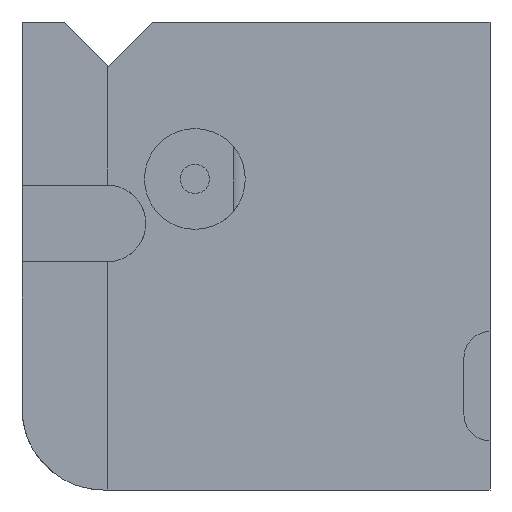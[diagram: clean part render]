
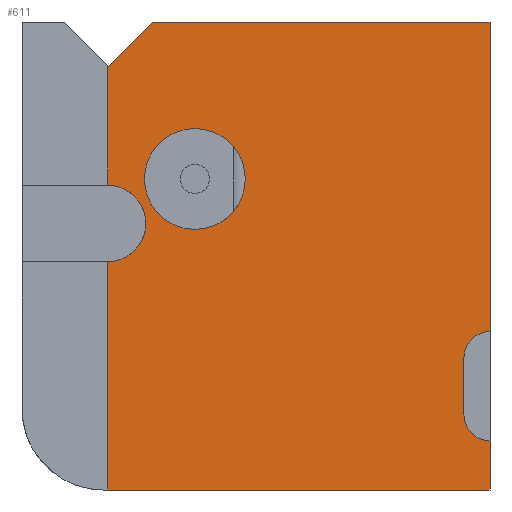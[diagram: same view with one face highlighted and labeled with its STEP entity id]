
A CAD part, front view. The second image highlights one B-rep face of the part: STEP entity #611.
In plain terms, the highlighted planar face has unit normal (0, -1, 0).
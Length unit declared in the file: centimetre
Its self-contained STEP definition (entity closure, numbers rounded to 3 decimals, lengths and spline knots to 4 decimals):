
#50 = EDGE_CURVE ( 'NONE', #1776, #986, #616, .T. ) ;
#59 = CARTESIAN_POINT ( 'NONE',  ( 185.076, 0., 905.8421 ) ) ;
#73 = EDGE_CURVE ( 'NONE', #1118, #184, #1415, .T. ) ;
#85 = DIRECTION ( 'NONE',  ( 0., 0., 1. ) ) ;
#160 = CARTESIAN_POINT ( 'NONE',  ( 369.394, 0., 664.5711 ) ) ;
#184 = VERTEX_POINT ( 'NONE', #1517 ) ;
#194 = EDGE_CURVE ( 'NONE', #1234, #1776, #363, .T. ) ;
#196 = AXIS2_PLACEMENT_3D ( 'NONE', #1888, #1543, #748 ) ;
#244 = ORIENTED_EDGE ( 'NONE', *, *, #1048, .F. ) ;
#277 = CARTESIAN_POINT ( 'NONE',  ( 185.076, 0., 905.8421 ) ) ;
#283 = AXIS2_PLACEMENT_3D ( 'NONE', #335, #1148, #496 ) ;
#313 = DIRECTION ( 'NONE',  ( 0., 0., 1. ) ) ;
#328 = VECTOR ( 'NONE', #1706, 100. ) ;
#335 = CARTESIAN_POINT ( 'NONE',  ( 1000., 0., 283.0173 ) ) ;
#344 = DIRECTION ( 'NONE',  ( 0., 1., 0. ) ) ;
#347 = CARTESIAN_POINT ( 'NONE',  ( 183.6865, 0., 651.5066 ) ) ;
#354 = CARTESIAN_POINT ( 'NONE',  ( 279.2339, 0., 1000. ) ) ;
#363 = LINE ( 'NONE', #1008, #1145 ) ;
#367 = VECTOR ( 'NONE', #1463, 100. ) ;
#369 = DIRECTION ( 'NONE',  ( -0.707, 0., 0.707 ) ) ;
#389 = ORIENTED_EDGE ( 'NONE', *, *, #1393, .F. ) ;
#415 = DIRECTION ( 'NONE',  ( 0., -1., 0. ) ) ;
#426 = VERTEX_POINT ( 'NONE', #347 ) ;
#445 = DIRECTION ( 'NONE',  ( 0., 0., -1. ) ) ;
#452 = VERTEX_POINT ( 'NONE', #1336 ) ;
#468 = ORIENTED_EDGE ( 'NONE', *, *, #1495, .F. ) ;
#470 = VECTOR ( 'NONE', #1642, 100. ) ;
#475 = VECTOR ( 'NONE', #1362, 100. ) ;
#493 = ORIENTED_EDGE ( 'NONE', *, *, #982, .T. ) ;
#496 = DIRECTION ( 'NONE',  ( 0., 0., 1. ) ) ;
#497 = AXIS2_PLACEMENT_3D ( 'NONE', #909, #415, #2042 ) ;
#529 = LINE ( 'NONE', #1174, #1681 ) ;
#546 = ORIENTED_EDGE ( 'NONE', *, *, #1477, .T. ) ;
#583 = EDGE_LOOP ( 'NONE', ( #1683, #865 ) ) ;
#587 = CIRCLE ( 'NONE', #283, 55.5855 ) ;
#600 = CARTESIAN_POINT ( 'NONE',  ( 1000., 0., 1000. ) ) ;
#611 = ADVANCED_FACE ( 'NONE', ( #1884, #1907 ), #1072, .F. ) ;
#616 = CIRCLE ( 'NONE', #1483, 55.5855 ) ;
#622 = ORIENTED_EDGE ( 'NONE', *, *, #50, .F. ) ;
#628 = VERTEX_POINT ( 'NONE', #354 ) ;
#698 = CARTESIAN_POINT ( 'NONE',  ( 183.6865, 0., 0. ) ) ;
#700 = VECTOR ( 'NONE', #1718, 100. ) ;
#705 = CARTESIAN_POINT ( 'NONE',  ( 0., 0., 1000. ) ) ;
#727 = VERTEX_POINT ( 'NONE', #1496 ) ;
#748 = DIRECTION ( 'NONE',  ( 0., 0., -1. ) ) ;
#754 = ORIENTED_EDGE ( 'NONE', *, *, #1827, .F. ) ;
#759 = LINE ( 'NONE', #1083, #328 ) ;
#782 = VERTEX_POINT ( 'NONE', #843 ) ;
#800 = DIRECTION ( 'NONE',  ( 0., 0., -1. ) ) ;
#805 = CARTESIAN_POINT ( 'NONE',  ( 1000., 0., 1000. ) ) ;
#843 = CARTESIAN_POINT ( 'NONE',  ( 1000., 0., 0. ) ) ;
#865 = ORIENTED_EDGE ( 'NONE', *, *, #73, .F. ) ;
#889 = VERTEX_POINT ( 'NONE', #277 ) ;
#904 = EDGE_LOOP ( 'NONE', ( #546, #389, #244, #1392, #493, #1202, #622, #1547, #754, #468, #1993, #968 ) ) ;
#909 = CARTESIAN_POINT ( 'NONE',  ( 182.5053, 0., 569.5174 ) ) ;
#968 = ORIENTED_EDGE ( 'NONE', *, *, #1986, .T. ) ;
#980 = EDGE_CURVE ( 'NONE', #184, #1118, #1470, .T. ) ;
#982 = EDGE_CURVE ( 'NONE', #452, #782, #1530, .T. ) ;
#986 = VERTEX_POINT ( 'NONE', #1233 ) ;
#1008 = CARTESIAN_POINT ( 'NONE',  ( 944.4145, 0., 160.519 ) ) ;
#1032 = VECTOR ( 'NONE', #1041, 100. ) ;
#1041 = DIRECTION ( 'NONE',  ( 0., 0., -1. ) ) ;
#1048 = EDGE_CURVE ( 'NONE', #1355, #426, #1895, .T. ) ;
#1072 = PLANE ( 'NONE',  #1751 ) ;
#1074 = EDGE_CURVE ( 'NONE', #628, #1635, #759, .T. ) ;
#1083 = CARTESIAN_POINT ( 'NONE',  ( 0., 0., 1000. ) ) ;
#1118 = VERTEX_POINT ( 'NONE', #1366 ) ;
#1142 = DIRECTION ( 'NONE',  ( 0., -1., 0. ) ) ;
#1145 = VECTOR ( 'NONE', #445, 100. ) ;
#1148 = DIRECTION ( 'NONE',  ( 0., -1., 0. ) ) ;
#1174 = CARTESIAN_POINT ( 'NONE',  ( 90.9181, 0., 1000. ) ) ;
#1202 = ORIENTED_EDGE ( 'NONE', *, *, #1228, .F. ) ;
#1209 = LINE ( 'NONE', #600, #1032 ) ;
#1228 = EDGE_CURVE ( 'NONE', #986, #782, #2080, .T. ) ;
#1233 = CARTESIAN_POINT ( 'NONE',  ( 1000., 0., 104.9335 ) ) ;
#1234 = VERTEX_POINT ( 'NONE', #1431 ) ;
#1274 = CARTESIAN_POINT ( 'NONE',  ( 1000., 0., 160.519 ) ) ;
#1294 = CARTESIAN_POINT ( 'NONE',  ( 183.6865, 0., 907.2316 ) ) ;
#1336 = CARTESIAN_POINT ( 'NONE',  ( 183.6865, 0., 0. ) ) ;
#1355 = VERTEX_POINT ( 'NONE', #1450 ) ;
#1362 = DIRECTION ( 'NONE',  ( 0., 0., 1. ) ) ;
#1366 = CARTESIAN_POINT ( 'NONE',  ( 369.394, 0., 772.2575 ) ) ;
#1392 = ORIENTED_EDGE ( 'NONE', *, *, #2056, .F. ) ;
#1393 = EDGE_CURVE ( 'NONE', #426, #1804, #1801, .T. ) ;
#1415 = CIRCLE ( 'NONE', #1589, 107.6864 ) ;
#1431 = CARTESIAN_POINT ( 'NONE',  ( 944.4145, 0., 283.0173 ) ) ;
#1450 = CARTESIAN_POINT ( 'NONE',  ( 183.6865, 0., 487.5281 ) ) ;
#1463 = DIRECTION ( 'NONE',  ( -0.707, 0., -0.707 ) ) ;
#1470 = CIRCLE ( 'NONE', #196, 107.6864 ) ;
#1477 = EDGE_CURVE ( 'NONE', #889, #1804, #529, .T. ) ;
#1483 = AXIS2_PLACEMENT_3D ( 'NONE', #1274, #1768, #313 ) ;
#1495 = EDGE_CURVE ( 'NONE', #1635, #727, #1209, .T. ) ;
#1496 = CARTESIAN_POINT ( 'NONE',  ( 1000., 0., 338.6027 ) ) ;
#1517 = CARTESIAN_POINT ( 'NONE',  ( 369.394, 0., 556.8846 ) ) ;
#1530 = LINE ( 'NONE', #2052, #700 ) ;
#1543 = DIRECTION ( 'NONE',  ( 0., -1., 0. ) ) ;
#1547 = ORIENTED_EDGE ( 'NONE', *, *, #194, .F. ) ;
#1549 = VECTOR ( 'NONE', #1601, 100. ) ;
#1589 = AXIS2_PLACEMENT_3D ( 'NONE', #160, #1142, #800 ) ;
#1601 = DIRECTION ( 'NONE',  ( 0., 0., -1. ) ) ;
#1635 = VERTEX_POINT ( 'NONE', #1763 ) ;
#1642 = DIRECTION ( 'NONE',  ( 0., 0., 1. ) ) ;
#1681 = VECTOR ( 'NONE', #369, 100. ) ;
#1683 = ORIENTED_EDGE ( 'NONE', *, *, #980, .F. ) ;
#1706 = DIRECTION ( 'NONE',  ( 1., 0., 0. ) ) ;
#1718 = DIRECTION ( 'NONE',  ( 1., 0., 0. ) ) ;
#1751 = AXIS2_PLACEMENT_3D ( 'NONE', #705, #344, #85 ) ;
#1763 = CARTESIAN_POINT ( 'NONE',  ( 1000., 0., 1000. ) ) ;
#1768 = DIRECTION ( 'NONE',  ( 0., -1., 0. ) ) ;
#1776 = VERTEX_POINT ( 'NONE', #2018 ) ;
#1792 = LINE ( 'NONE', #59, #367 ) ;
#1801 = LINE ( 'NONE', #698, #470 ) ;
#1804 = VERTEX_POINT ( 'NONE', #1294 ) ;
#1827 = EDGE_CURVE ( 'NONE', #727, #1234, #587, .T. ) ;
#1884 = FACE_BOUND ( 'NONE', #583, .T. ) ;
#1888 = CARTESIAN_POINT ( 'NONE',  ( 369.394, 0., 664.5711 ) ) ;
#1895 = CIRCLE ( 'NONE', #497, 81.9977 ) ;
#1907 = FACE_OUTER_BOUND ( 'NONE', #904, .T. ) ;
#1986 = EDGE_CURVE ( 'NONE', #628, #889, #1792, .T. ) ;
#1993 = ORIENTED_EDGE ( 'NONE', *, *, #1074, .F. ) ;
#2018 = CARTESIAN_POINT ( 'NONE',  ( 944.4145, 0., 160.519 ) ) ;
#2025 = LINE ( 'NONE', #2050, #475 ) ;
#2042 = DIRECTION ( 'NONE',  ( 0., 0., -1. ) ) ;
#2050 = CARTESIAN_POINT ( 'NONE',  ( 183.6865, 0., 0. ) ) ;
#2052 = CARTESIAN_POINT ( 'NONE',  ( 0., 0., 0. ) ) ;
#2056 = EDGE_CURVE ( 'NONE', #452, #1355, #2025, .T. ) ;
#2080 = LINE ( 'NONE', #805, #1549 ) ;
